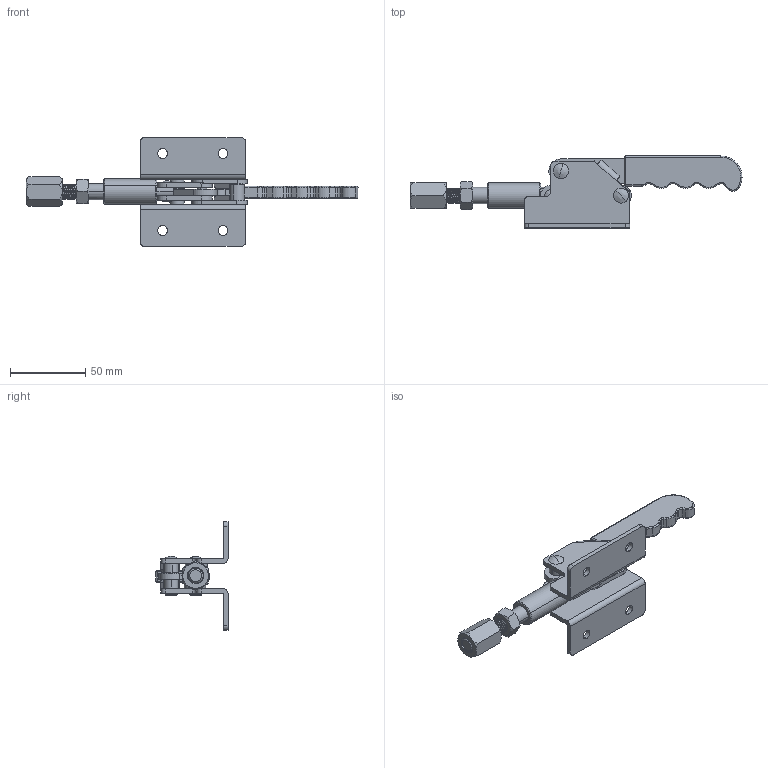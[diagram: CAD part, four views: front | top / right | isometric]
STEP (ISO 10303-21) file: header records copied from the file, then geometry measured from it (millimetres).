
FILE_DESCRIPTION (( 'STEP AP214' ), '1' );
FILE_NAME ('DST-302-DM.STEP', '2022-07-28T10:29:18', ( '' ), ( '' ), 'SwSTEP 2.0', 'SolidWorks 2015', '' );
FILE_SCHEMA (( 'AUTOMOTIVE_DESIGN' ));
Length unit declared in the file: millimetre
Products named in the file (15): DST_Bｺ=+ｼｩT; DST_302DM蹉峔01; DST_hex nuts, style 1-grades ab gb_GB_FASTENER_NUT_SNAB1 M10-S; DST_47; DST-1; DST_SHOU; DST_弦缶B; DST_弦缶A; DST_仄俓; DST_Aｺ=+ｼｩT; DSTｦ2; DST_63; DST_1; DST-302-DM; DST_302DM蹉峔02
Assembly tree (18 placements, depth 2):
  DST-302-DM
    DST_1
    DST-1
    DSTｦ2
    DST_hex nuts, style 1-grades ab gb_GB_FASTENER_NUT_SNAB1 M10-S
    DST_Aｺ=+ｼｩT  x2
    DST_Bｺ=+ｼｩT  x2
    DST_弦缶A
    DST_63  x2
    DST_47
    DST_SHOU
    DST_仄俓
    DST_弦缶B  x2
    DST_302DM蹉峔01
    DST_302DM蹉峔02
Bounding box: 220.07 x 47.8 x 72 mm (x, y, z)
Volume: 66884.4 mm3; surface area: 45594.4 mm2
Topology: 18 solids, 18 shells, 521 faces, 1303 edges, 811 vertices
Faces by surface type: cylinder 238, plane 119, cone 101, bspline 59, sphere 4
Entity records: 21252 total; most frequent: CARTESIAN_POINT 10097, ORIENTED_EDGE 2320, DIRECTION 2131, EDGE_CURVE 1160, AXIS2_PLACEMENT_3D 820, VERTEX_POINT 729, EDGE_LOOP 511, LINE 491
